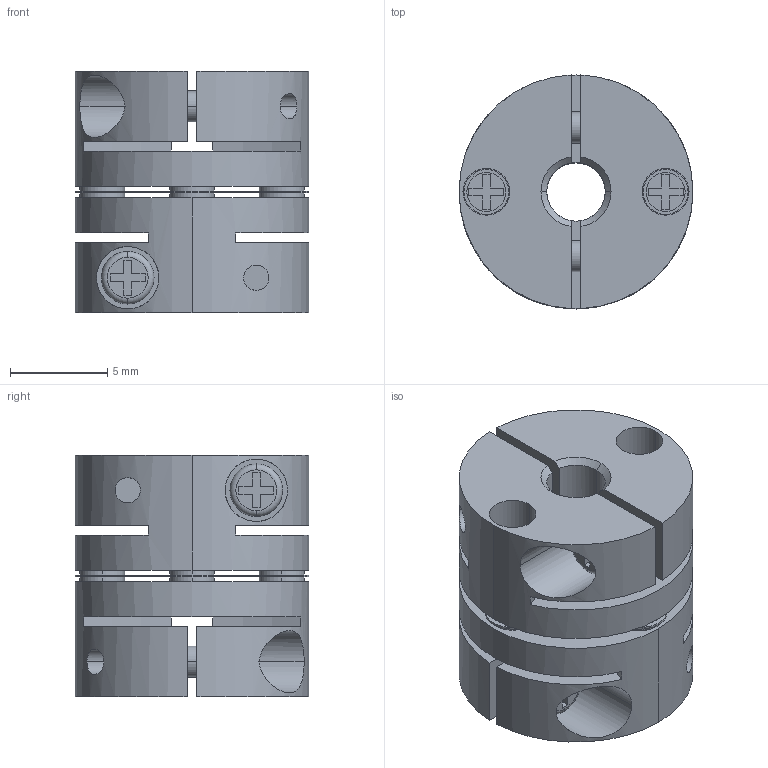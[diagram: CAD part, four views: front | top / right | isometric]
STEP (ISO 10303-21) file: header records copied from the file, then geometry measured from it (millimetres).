
FILE_DESCRIPTION((''),'2;1');
FILE_NAME('LAS-12C-3×3.stp','2011-08-11T11:56:27',(''),(''),'AutoCAD STEP 2000i','AutoCAD 2000i',', , ');
FILE_SCHEMA(('CONFIG_CONTROL_DESIGN'));
Length unit declared in the file: millimetre
Products named in the file (5): LAS-12C-3×3; 忣兜1; LA-1202-D03-1; LA-1202-D03; LAS12-ITA
Assembly tree (4 placements, depth 2):
  LAS-12C-3×3
    忣兜1
    LA-1202-D03-1
    LA-1202-D03
    LAS12-ITA
Bounding box: 12 x 12 x 12.4 mm (x, y, z)
Volume: 958.5 mm3; surface area: 1814.2 mm2
Topology: 1 solids, 1 shells, 264 faces, 692 edges, 460 vertices
Faces by surface type: plane 156, cylinder 88, cone 12, torus 8
Entity records: 8707 total; most frequent: CARTESIAN_POINT 1805, DIRECTION 1438, ORIENTED_EDGE 1384, EDGE_CURVE 692, AXIS2_PLACEMENT_3D 501, VERTEX_POINT 460, VECTOR 436, LINE 436
